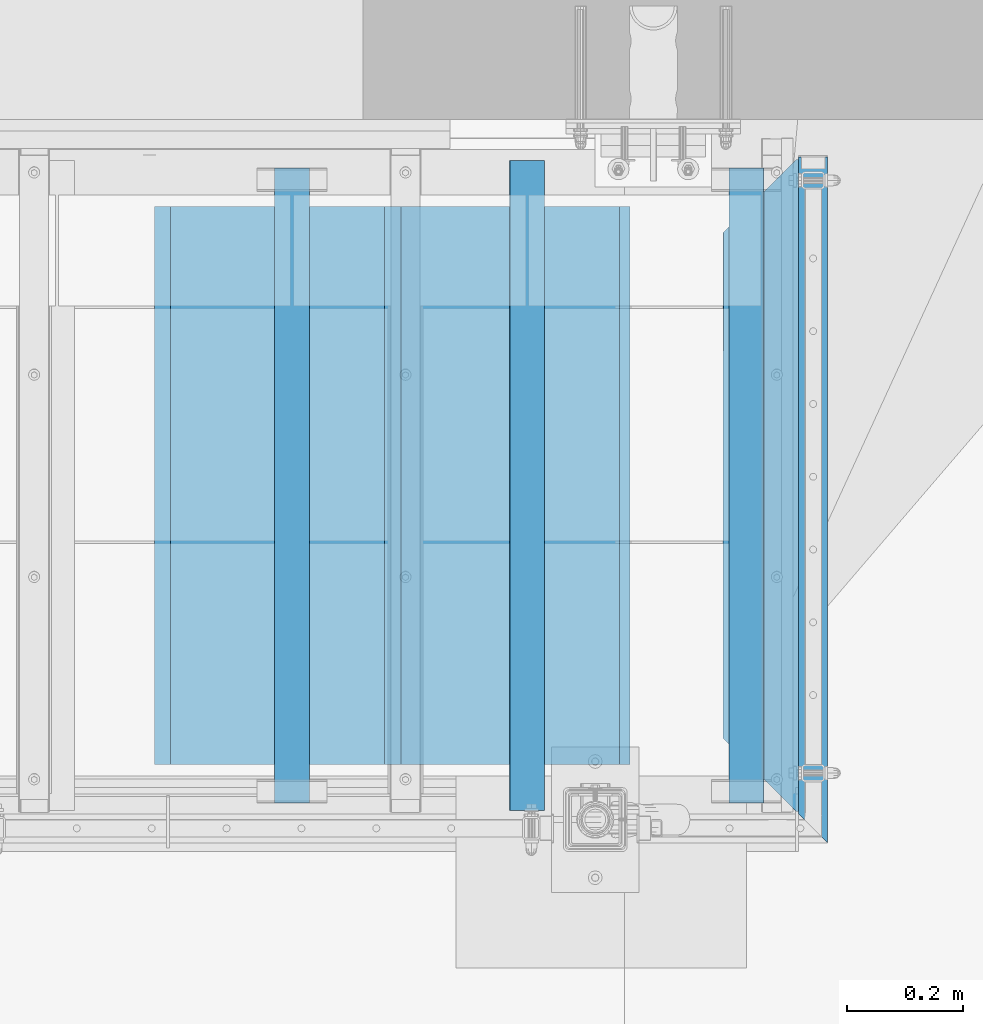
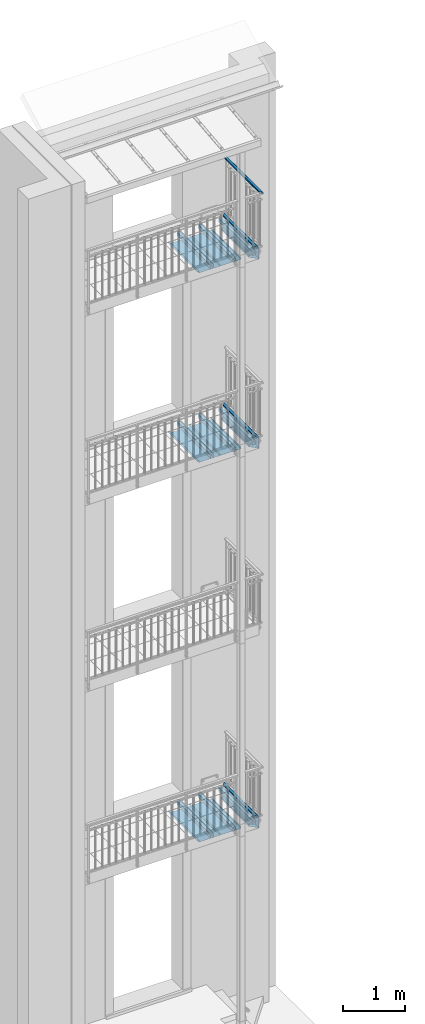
# One storey, part 44 of 162: 19 beams, 24 openings.
"""IFC2X3 building model written with IfcOpenShell, lengths in millimetres."""

from ifc_helpers import new_model, entity, si_unit, converted_unit, point, frame, frame_2d, origin, origin_with_axes, origin_2d, origin_2d_with_axis, place, context, project, spatial, polyline, circle_curve, line_curve, trimmed, segment, composite_curve, hollow_rectangle, circle, outline, extrude, clip, halfspace, material, element, save


model = new_model("IFC2X3")

# Units and contexts
model_context = context("Model", 3, precision=1e-09, world=origin_with_axes())
ifc_project = project(units=[si_unit("LENGTHUNIT", "METRE", prefix="MILLI"), si_unit("AREAUNIT", "SQUARE_METRE"), si_unit("VOLUMEUNIT", "CUBIC_METRE"), converted_unit("PLANEANGLEUNIT", "DEGREE", entity("IfcPlaneAngleMeasure", 0.01745329), si_unit("PLANEANGLEUNIT", "RADIAN"), dimensions=[0, 0, 0, 0, 0, 0, 0])], contexts=[model_context])

# Site, building, storey
site_placement = place(None, origin_with_axes())
site = spatial("IfcSite", under=ifc_project, at=site_placement, Name="Hermannstra?e 1a, 60318 Frankfurt", CompositionType="ELEMENT")
building_placement = place(site_placement, origin_with_axes())
building = spatial("IfcBuilding", under=site, at=building_placement, Name="Struktur 1", CompositionType="ELEMENT")
storey_placement = place(building_placement, origin_with_axes())
storey = spatial("IfcBuildingStorey", under=building, at=storey_placement, Name="Default Storey", CompositionType="ELEMENT", Elevation=0.0)

# Beam, openings
ifc_material_1 = material(Name="S355JR")
beam_1_placement = place(None, frame((5758.30936482, 1163.302136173, 11364.999), z_axis=(0.0, 1.0, 0.0), x_axis=(-1.0, 0.0, 0.0)))
beam_1 = element("IfcBeam", 1, at=beam_1_placement, inside=storey, material=ifc_material_1, Name="-", ObjectType="-", context=model_context, shape_type="Clipping", body=[
    clip(clip(extrude(outline(composite_curve([segment(trimmed(circle_curve(frame_2d((57.999999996, -107.999999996), x_axis=(1.0, 0.0)), 7.000000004), [point((58.0, -115.0))], [point((65.0, -108.0))], True, "CARTESIAN"), True, "CONTINUOUS"), segment(trimmed(line_curve((65.0, -108.0), (0.0, 1.0), 31.0), [point((65.0, -108.0))], [point((65.0, -77.0))], True, "CARTESIAN"), True, "CONTINUOUS"), segment(trimmed(circle_curve(frame_2d((57.999999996, -77.000000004), x_axis=(1.0, 0.0)), 7.000000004), [point((65.0, -77.0))], [point((58.0, -70.0))], True, "CARTESIAN"), True, "CONTINUOUS"), segment(trimmed(line_curve((58.0, -70.0), (-1.0, 0.0), 23.0), [point((58.0, -70.0))], [point((35.0, -70.0))], True, "CARTESIAN"), True, "CONTINUOUS"), segment(trimmed(line_curve((35.0, -70.0), (0.0, -1.0), 4.0), [point((35.0, -70.0))], [point((35.0, -74.0))], True, "CARTESIAN"), True, "CONTINUOUS"), segment(trimmed(line_curve((35.0, -74.0), (1.0, 0.0), 23.0), [point((35.0, -74.0))], [point((58.0, -74.0))], True, "CARTESIAN"), True, "CONTINUOUS"), segment(trimmed(circle_curve(frame_2d((57.999999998, -77.000000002), x_axis=(-1.0, 0.0)), 3.000000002), [point((58.0, -74.0))], [point((61.0, -77.0))], False, "CARTESIAN"), True, "CONTINUOUS"), segment(trimmed(line_curve((61.0, -77.0), (0.0, -1.0), 31.0), [point((61.0, -77.0))], [point((61.0, -108.0))], True, "CARTESIAN"), True, "CONTINUOUS"), segment(trimmed(circle_curve(frame_2d((57.999999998, -107.999999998), x_axis=(-1.0, 0.0)), 3.000000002), [point((61.0, -108.0))], [point((58.0, -111.0))], False, "CARTESIAN"), True, "CONTINUOUS"), segment(trimmed(line_curve((58.0, -111.0), (-1.0, 0.0), 116.0), [point((58.0, -111.0))], [point((-58.0, -111.0))], True, "CARTESIAN"), True, "CONTINUOUS"), segment(trimmed(circle_curve(frame_2d((-57.999999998, -107.999999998), x_axis=(-1.0, 0.0)), 3.000000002), [point((-58.0, -111.0))], [point((-61.0, -108.0))], False, "CARTESIAN"), True, "CONTINUOUS"), segment(trimmed(line_curve((-61.0, -108.0), (0.0, 1.0), 216.0), [point((-61.0, -108.0))], [point((-61.0, 108.0))], True, "CARTESIAN"), True, "CONTINUOUS"), segment(trimmed(circle_curve(frame_2d((-57.999999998, 107.999999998), x_axis=(-1.0, 0.0)), 3.000000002), [point((-61.0, 108.0))], [point((-58.0, 111.0))], False, "CARTESIAN"), True, "CONTINUOUS"), segment(trimmed(line_curve((-58.0, 111.0), (1.0, 0.0), 46.0), [point((-58.0, 111.0))], [point((-12.0, 111.0))], True, "CARTESIAN"), True, "CONTINUOUS"), segment(trimmed(circle_curve(frame_2d((-12.000000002, 107.999999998), x_axis=(-1.0, 0.0)), 3.000000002), [point((-12.0, 111.0))], [point((-9.0, 108.0))], False, "CARTESIAN"), True, "CONTINUOUS"), segment(trimmed(line_curve((-9.0, 108.0), (0.0, -1.0), 33.0), [point((-9.0, 108.0))], [point((-9.0, 75.0))], True, "CARTESIAN"), True, "CONTINUOUS"), segment(trimmed(line_curve((-9.0, 75.0), (1.0, 0.0), 4.0), [point((-9.0, 75.0))], [point((-5.0, 75.0))], True, "CARTESIAN"), True, "CONTINUOUS"), segment(trimmed(line_curve((-5.0, 75.0), (0.0, 1.0), 33.0), [point((-5.0, 75.0))], [point((-5.0, 108.0))], True, "CARTESIAN"), True, "CONTINUOUS"), segment(trimmed(circle_curve(frame_2d((-12.000000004, 107.999999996), x_axis=(1.0, 0.0)), 7.000000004), [point((-5.0, 108.0))], [point((-12.0, 115.0))], True, "CARTESIAN"), True, "CONTINUOUS"), segment(trimmed(line_curve((-12.0, 115.0), (-1.0, 0.0), 46.0), [point((-12.0, 115.0))], [point((-58.0, 115.0))], True, "CARTESIAN"), True, "CONTINUOUS"), segment(trimmed(circle_curve(frame_2d((-57.999999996, 107.999999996), x_axis=(1.0, 0.0)), 7.000000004), [point((-58.0, 115.0))], [point((-65.0, 108.0))], True, "CARTESIAN"), True, "CONTINUOUS"), segment(trimmed(line_curve((-65.0, 108.0), (0.0, -1.0), 216.0), [point((-65.0, 108.0))], [point((-65.0, -108.0))], True, "CARTESIAN"), True, "CONTINUOUS"), segment(trimmed(circle_curve(frame_2d((-57.999999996, -107.999999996), x_axis=(1.0, 0.0)), 7.000000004), [point((-65.0, -108.0))], [point((-58.0, -115.0))], True, "CARTESIAN"), True, "CONTINUOUS"), segment(trimmed(line_curve((-58.0, -115.0), (1.0, 0.0), 116.0), [point((-58.0, -115.0))], [point((58.0, -115.0))], True, "CARTESIAN"), True, "CONTINUOUS")], self_intersect=False)), origin(), (0.0, 0.0, 1.0), 1884.614475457), halfspace(frame((4181.958662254, -11364.999, -2739.652838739), z_axis=(-0.707106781, 0.0, -0.707106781), x_axis=(-0.707106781, 0.0, 0.707106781)), True)), halfspace(frame((2076.349288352, -11364.999, 2518.657940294), z_axis=(-0.707106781, 0.0, 0.707106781), x_axis=(0.707106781, 0.0, 0.707106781)), True)),
])
opening_1_placement = place(beam_1_placement, frame((-56.065030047, 215.1, 367.985828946), z_axis=(0.0, 1.0, 0.0), x_axis=(-1.0, 0.0, 0.0)))
element("IfcOpeningElement", 2, at=opening_1_placement, cuts=beam_1, ObjectType="Opening", context=model_context, shape_type="SweptSolid", body=[
    extrude(outline(polyline([(0.0, 0.0), (32.796627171, 0.0), (32.796627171, 13.322408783), (0.0, 13.322408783), (0.0, 0.0)])), origin(), (0.0, 0.0, -1.0), 430.2),
])
opening_2_placement = place(beam_1_placement, frame((-72.463343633, 215.1, 1509.96744212), z_axis=(0.0, -1.0, 0.0), x_axis=(-1.0, 0.0, 0.0)))
element("IfcOpeningElement", 3, at=opening_2_placement, cuts=beam_1, ObjectType="Opening", context=model_context, shape_type="SweptSolid", body=[
    extrude(outline(polyline([(-16.398313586, -6.661204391), (16.398313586, -6.661204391), (16.398313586, 6.661204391), (-16.398313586, 6.661204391), (-16.398313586, -6.661204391)])), origin(), (0.0, 0.0, 1.0), 430.2),
])
opening_3_placement = place(beam_1_placement, frame((-60.5, 95.0, 407.307823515), z_axis=(1.0, 0.0, 0.0), x_axis=(0.0, 1.0, 0.0)))
element("IfcOpeningElement", 4, at=opening_3_placement, cuts=beam_1, ObjectType="Opening", context=model_context, shape_type="SweptSolid", body=[
    extrude(circle(Radius=10.001, at=frame_2d((0.0, -10.001), x_axis=(1.0, 0.0))), origin(), (0.0, 0.0, -1.0), 5.0),
])
opening_4_placement = place(beam_1_placement, frame((-65.5, 55.0, 440.306237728), z_axis=(-1.0, 0.0, 0.0), x_axis=(0.0, -1.0, 0.0)))
element("IfcOpeningElement", 5, at=opening_4_placement, cuts=beam_1, ObjectType="Opening", context=model_context, shape_type="SweptSolid", body=[
    extrude(circle(Radius=7.001, at=frame_2d((0.0, 7.001), x_axis=(1.0, 0.0))), origin(), (0.0, 0.0, -1.0), 5.0),
])
opening_5_placement = place(beam_1_placement, frame((-65.5, -25.0, 440.306237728), z_axis=(-1.0, 0.0, 0.0), x_axis=(0.0, -1.0, 0.0)))
element("IfcOpeningElement", 6, at=opening_5_placement, cuts=beam_1, ObjectType="Opening", context=model_context, shape_type="SweptSolid", body=[
    extrude(circle(Radius=7.001, at=frame_2d((0.0, 7.001), x_axis=(1.0, 0.0))), origin(), (0.0, 0.0, -1.0), 5.0),
])
opening_6_placement = place(beam_1_placement, frame((-65.5, 55.0, 1460.306237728), z_axis=(-1.0, 0.0, 0.0), x_axis=(0.0, -1.0, 0.0)))
element("IfcOpeningElement", 7, at=opening_6_placement, cuts=beam_1, ObjectType="Opening", context=model_context, shape_type="SweptSolid", body=[
    extrude(circle(Radius=7.001, at=frame_2d((0.0, 7.001), x_axis=(1.0, 0.0))), origin(), (0.0, 0.0, -1.0), 5.0),
])
opening_7_placement = place(beam_1_placement, frame((-65.5, -25.0, 1460.306237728), z_axis=(-1.0, 0.0, 0.0), x_axis=(0.0, -1.0, 0.0)))
element("IfcOpeningElement", 8, at=opening_7_placement, cuts=beam_1, ObjectType="Opening", context=model_context, shape_type="SweptSolid", body=[
    extrude(circle(Radius=7.001, at=frame_2d((0.0, 7.001), x_axis=(1.0, 0.0))), origin(), (0.0, 0.0, -1.0), 5.0),
])

# Beams
ifc_material_2 = material(Name="S235JR")
beam_2_placement = place(None, frame((5356.05936482, 1546.109373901, 11384.999), z_axis=(0.0, 1.0, 0.0), x_axis=(-1.0, 0.0, 0.0)))
element("IfcBeam", 9, at=beam_2_placement, inside=storey, material=ifc_material_2, Name="-", ObjectType="-", context=model_context, shape_type="SweptSolid", body=[
    extrude(hollow_rectangle(XDim=60.0, YDim=80.0, WallThickness=4.0, InnerFilletRadius=4.0, OuterFilletRadius=8.0, at=origin_2d()), origin(), (0.0, 0.0, 1.0), 1119.0),
])
for number, where, z_axis, x_axis in (
    (10, (4951.55936482, 1559.609373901, 11384.999), (0.0, 1.0, 0.0), (-1.0, 0.0, 0.0)),
    (11, (5733.30936482, 1559.609373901, 11384.999), (0.0, 1.0, 0.0), (-1.0, 0.0, 0.0)),
):
    element("IfcBeam", number, at=place(None, frame(where, z_axis=z_axis, x_axis=x_axis)), inside=storey, material=ifc_material_2, Name="-", ObjectType="-", context=model_context, shape_type="SweptSolid", body=[
        extrude(hollow_rectangle(XDim=60.0, YDim=80.0, WallThickness=4.0, InnerFilletRadius=4.0, OuterFilletRadius=8.0, at=origin_2d()), origin(), (0.0, 0.0, 1.0), 1092.0),
    ])
ifc_material_3 = material(Name="Alu")
for number, where, z_axis, x_axis in (
    (12, (5136.80936482, 1625.609373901, 11294.999), (0.0, -1.0, 0.0), (1.0, 0.0, 0.0)),
    (13, (5532.80936482, 1625.609373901, 11294.999), (0.0, -1.0, 0.0), (1.0, 0.0, 0.0)),
    (14, (5136.80936482, 1625.609373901, 15051.999), (0.0, -1.0, 0.0), (1.0, 0.0, 0.0)),
    (15, (5532.80936482, 1625.609373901, 15051.999), (0.0, -1.0, 0.0), (1.0, 0.0, 0.0)),
):
    element("IfcBeam", number, at=place(None, frame(where, z_axis=z_axis, x_axis=x_axis)), inside=storey, material=ifc_material_3, Name="-", ObjectType="-", context=model_context, shape_type="SweptSolid", body=[
        extrude(outline(polyline([(-421.449159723, 31.122617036), (-396.0, 34.699263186), (-396.0, 0.0), (0.0, 0.0), (0.0, 34.0), (-17.824825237, 31.494884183), (-17.546479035, 29.514348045), (-2.0, 31.699263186), (-2.0, 2.0), (-394.0, 2.0), (-394.0, 37.0), (-421.727505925, 33.103153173), (-421.449159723, 31.122617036)])), origin(), (0.0, 0.0, -1.0), 960.0),
    ])

# Beam, openings
beam_3_placement = place(None, frame((5848.30936482, 2670.609373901, 16321.999), z_axis=(0.0, 1.0, 0.0), x_axis=(0.0, 0.0, -1.0)))
beam_3 = element("IfcBeam", 16, at=beam_3_placement, inside=storey, material=ifc_material_2, Name="-", ObjectType="-", context=model_context, shape_type="Clipping", body=[
    clip(extrude(hollow_rectangle(XDim=30.0, YDim=50.0, WallThickness=3.0, InnerFilletRadius=3.0, OuterFilletRadius=6.0, at=origin_2d()), origin(), (0.0, 0.0, -1.0), 1196.231056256), halfspace(frame((16321.999, 2166.349288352, 1011.350702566), z_axis=(0.0, -0.707106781, 0.707106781), x_axis=(0.0, 0.707106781, 0.707106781)), True)),
])
opening_8_placement = place(beam_3_placement, frame((11.5, 0.0, -1065.001), z_axis=(-1.0, 0.0, 0.0), x_axis=(0.0, -1.0, 0.0)))
element("IfcOpeningElement", 17, at=opening_8_placement, cuts=beam_3, ObjectType="Opening", context=model_context, shape_type="SweptSolid", body=[
    extrude(circle(Radius=5.001, at=frame_2d((0.0, 5.001), x_axis=(1.0, 0.0))), origin(), (0.0, 0.0, -1.0), 4.0),
])
opening_9_placement = place(beam_3_placement, frame((11.5, 0.0, -40.0), z_axis=(1.0, 0.0, 0.0), x_axis=(0.0, 0.0, -1.0)))
element("IfcOpeningElement", 18, at=opening_9_placement, cuts=beam_3, ObjectType="Opening", context=model_context, shape_type="SweptSolid", body=[
    extrude(circle(Radius=5.001, at=origin_2d_with_axis()), origin(), (0.0, 0.0, 1.0), 4.0),
])
opening_10_placement = place(beam_3_placement, frame((0.0, -21.5, -1180.0), z_axis=(0.0, -1.0, 0.0), x_axis=(0.0, 0.0, 1.0)))
element("IfcOpeningElement", 19, at=opening_10_placement, cuts=beam_3, ObjectType="Opening", context=model_context, shape_type="SweptSolid", body=[
    extrude(circle(Radius=4.001, at=frame_2d((10.0, 0.0), x_axis=(1.0, 0.0))), origin(), (0.0, 0.0, 1.0), 4.0),
])

beam_4_placement = place(None, frame((5758.30936482, 1163.302136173, 15121.999), z_axis=(0.0, 1.0, 0.0), x_axis=(-1.0, 0.0, 0.0)))
beam_4 = element("IfcBeam", 20, at=beam_4_placement, inside=storey, material=ifc_material_1, Name="-", ObjectType="-", context=model_context, shape_type="Clipping", body=[
    clip(clip(extrude(outline(composite_curve([segment(trimmed(circle_curve(frame_2d((57.999999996, -107.999999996), x_axis=(1.0, 0.0)), 7.000000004), [point((58.0, -115.0))], [point((65.0, -108.0))], True, "CARTESIAN"), True, "CONTINUOUS"), segment(trimmed(line_curve((65.0, -108.0), (0.0, 1.0), 31.0), [point((65.0, -108.0))], [point((65.0, -77.0))], True, "CARTESIAN"), True, "CONTINUOUS"), segment(trimmed(circle_curve(frame_2d((57.999999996, -77.000000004), x_axis=(1.0, 0.0)), 7.000000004), [point((65.0, -77.0))], [point((58.0, -70.0))], True, "CARTESIAN"), True, "CONTINUOUS"), segment(trimmed(line_curve((58.0, -70.0), (-1.0, 0.0), 23.0), [point((58.0, -70.0))], [point((35.0, -70.0))], True, "CARTESIAN"), True, "CONTINUOUS"), segment(trimmed(line_curve((35.0, -70.0), (0.0, -1.0), 4.0), [point((35.0, -70.0))], [point((35.0, -74.0))], True, "CARTESIAN"), True, "CONTINUOUS"), segment(trimmed(line_curve((35.0, -74.0), (1.0, 0.0), 23.0), [point((35.0, -74.0))], [point((58.0, -74.0))], True, "CARTESIAN"), True, "CONTINUOUS"), segment(trimmed(circle_curve(frame_2d((57.999999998, -77.000000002), x_axis=(-1.0, 0.0)), 3.000000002), [point((58.0, -74.0))], [point((61.0, -77.0))], False, "CARTESIAN"), True, "CONTINUOUS"), segment(trimmed(line_curve((61.0, -77.0), (0.0, -1.0), 31.0), [point((61.0, -77.0))], [point((61.0, -108.0))], True, "CARTESIAN"), True, "CONTINUOUS"), segment(trimmed(circle_curve(frame_2d((57.999999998, -107.999999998), x_axis=(-1.0, 0.0)), 3.000000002), [point((61.0, -108.0))], [point((58.0, -111.0))], False, "CARTESIAN"), True, "CONTINUOUS"), segment(trimmed(line_curve((58.0, -111.0), (-1.0, 0.0), 116.0), [point((58.0, -111.0))], [point((-58.0, -111.0))], True, "CARTESIAN"), True, "CONTINUOUS"), segment(trimmed(circle_curve(frame_2d((-57.999999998, -107.999999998), x_axis=(-1.0, 0.0)), 3.000000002), [point((-58.0, -111.0))], [point((-61.0, -108.0))], False, "CARTESIAN"), True, "CONTINUOUS"), segment(trimmed(line_curve((-61.0, -108.0), (0.0, 1.0), 216.0), [point((-61.0, -108.0))], [point((-61.0, 108.0))], True, "CARTESIAN"), True, "CONTINUOUS"), segment(trimmed(circle_curve(frame_2d((-57.999999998, 107.999999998), x_axis=(-1.0, 0.0)), 3.000000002), [point((-61.0, 108.0))], [point((-58.0, 111.0))], False, "CARTESIAN"), True, "CONTINUOUS"), segment(trimmed(line_curve((-58.0, 111.0), (1.0, 0.0), 46.0), [point((-58.0, 111.0))], [point((-12.0, 111.0))], True, "CARTESIAN"), True, "CONTINUOUS"), segment(trimmed(circle_curve(frame_2d((-12.000000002, 107.999999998), x_axis=(-1.0, 0.0)), 3.000000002), [point((-12.0, 111.0))], [point((-9.0, 108.0))], False, "CARTESIAN"), True, "CONTINUOUS"), segment(trimmed(line_curve((-9.0, 108.0), (0.0, -1.0), 33.0), [point((-9.0, 108.0))], [point((-9.0, 75.0))], True, "CARTESIAN"), True, "CONTINUOUS"), segment(trimmed(line_curve((-9.0, 75.0), (1.0, 0.0), 4.0), [point((-9.0, 75.0))], [point((-5.0, 75.0))], True, "CARTESIAN"), True, "CONTINUOUS"), segment(trimmed(line_curve((-5.0, 75.0), (0.0, 1.0), 33.0), [point((-5.0, 75.0))], [point((-5.0, 108.0))], True, "CARTESIAN"), True, "CONTINUOUS"), segment(trimmed(circle_curve(frame_2d((-12.000000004, 107.999999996), x_axis=(1.0, 0.0)), 7.000000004), [point((-5.0, 108.0))], [point((-12.0, 115.0))], True, "CARTESIAN"), True, "CONTINUOUS"), segment(trimmed(line_curve((-12.0, 115.0), (-1.0, 0.0), 46.0), [point((-12.0, 115.0))], [point((-58.0, 115.0))], True, "CARTESIAN"), True, "CONTINUOUS"), segment(trimmed(circle_curve(frame_2d((-57.999999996, 107.999999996), x_axis=(1.0, 0.0)), 7.000000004), [point((-58.0, 115.0))], [point((-65.0, 108.0))], True, "CARTESIAN"), True, "CONTINUOUS"), segment(trimmed(line_curve((-65.0, 108.0), (0.0, -1.0), 216.0), [point((-65.0, 108.0))], [point((-65.0, -108.0))], True, "CARTESIAN"), True, "CONTINUOUS"), segment(trimmed(circle_curve(frame_2d((-57.999999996, -107.999999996), x_axis=(1.0, 0.0)), 7.000000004), [point((-65.0, -108.0))], [point((-58.0, -115.0))], True, "CARTESIAN"), True, "CONTINUOUS"), segment(trimmed(line_curve((-58.0, -115.0), (1.0, 0.0), 116.0), [point((-58.0, -115.0))], [point((58.0, -115.0))], True, "CARTESIAN"), True, "CONTINUOUS")], self_intersect=False)), origin(), (0.0, 0.0, 1.0), 1884.614475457), halfspace(frame((4181.958662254, -15121.999, -2739.652838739), z_axis=(-0.707106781, 0.0, -0.707106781), x_axis=(-0.707106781, 0.0, 0.707106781)), True)), halfspace(frame((2076.349288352, -15121.999, 2518.657940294), z_axis=(-0.707106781, 0.0, 0.707106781), x_axis=(0.707106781, 0.0, 0.707106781)), True)),
])
opening_11_placement = place(beam_4_placement, frame((-56.065030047, 215.1, 367.985828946), z_axis=(0.0, 1.0, 0.0), x_axis=(-1.0, 0.0, 0.0)))
element("IfcOpeningElement", 21, at=opening_11_placement, cuts=beam_4, ObjectType="Opening", context=model_context, shape_type="SweptSolid", body=[
    extrude(outline(polyline([(0.0, 0.0), (32.796627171, 0.0), (32.796627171, 13.322408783), (0.0, 13.322408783), (0.0, 0.0)])), origin(), (0.0, 0.0, -1.0), 430.2),
])
opening_12_placement = place(beam_4_placement, frame((-72.463343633, 215.1, 1509.96744212), z_axis=(0.0, -1.0, 0.0), x_axis=(-1.0, 0.0, 0.0)))
element("IfcOpeningElement", 22, at=opening_12_placement, cuts=beam_4, ObjectType="Opening", context=model_context, shape_type="SweptSolid", body=[
    extrude(outline(polyline([(-16.398313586, -6.661204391), (16.398313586, -6.661204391), (16.398313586, 6.661204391), (-16.398313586, 6.661204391), (-16.398313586, -6.661204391)])), origin(), (0.0, 0.0, 1.0), 430.2),
])
opening_13_placement = place(beam_4_placement, frame((-60.5, 95.0, 407.307823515), z_axis=(1.0, 0.0, 0.0), x_axis=(0.0, 1.0, 0.0)))
element("IfcOpeningElement", 23, at=opening_13_placement, cuts=beam_4, ObjectType="Opening", context=model_context, shape_type="SweptSolid", body=[
    extrude(circle(Radius=10.001, at=frame_2d((0.0, -10.001), x_axis=(1.0, 0.0))), origin(), (0.0, 0.0, -1.0), 5.0),
])
opening_14_placement = place(beam_4_placement, frame((-65.5, 55.0, 440.306237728), z_axis=(-1.0, 0.0, 0.0), x_axis=(0.0, -1.0, 0.0)))
element("IfcOpeningElement", 24, at=opening_14_placement, cuts=beam_4, ObjectType="Opening", context=model_context, shape_type="SweptSolid", body=[
    extrude(circle(Radius=7.001, at=frame_2d((0.0, 7.001), x_axis=(1.0, 0.0))), origin(), (0.0, 0.0, -1.0), 5.0),
])
opening_15_placement = place(beam_4_placement, frame((-65.5, -25.0, 440.306237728), z_axis=(-1.0, 0.0, 0.0), x_axis=(0.0, -1.0, 0.0)))
element("IfcOpeningElement", 25, at=opening_15_placement, cuts=beam_4, ObjectType="Opening", context=model_context, shape_type="SweptSolid", body=[
    extrude(circle(Radius=7.001, at=frame_2d((0.0, 7.001), x_axis=(1.0, 0.0))), origin(), (0.0, 0.0, -1.0), 5.0),
])
opening_16_placement = place(beam_4_placement, frame((-65.5, 55.0, 1460.306237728), z_axis=(-1.0, 0.0, 0.0), x_axis=(0.0, -1.0, 0.0)))
element("IfcOpeningElement", 26, at=opening_16_placement, cuts=beam_4, ObjectType="Opening", context=model_context, shape_type="SweptSolid", body=[
    extrude(circle(Radius=7.001, at=frame_2d((0.0, 7.001), x_axis=(1.0, 0.0))), origin(), (0.0, 0.0, -1.0), 5.0),
])
opening_17_placement = place(beam_4_placement, frame((-65.5, -25.0, 1460.306237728), z_axis=(-1.0, 0.0, 0.0), x_axis=(0.0, -1.0, 0.0)))
element("IfcOpeningElement", 27, at=opening_17_placement, cuts=beam_4, ObjectType="Opening", context=model_context, shape_type="SweptSolid", body=[
    extrude(circle(Radius=7.001, at=frame_2d((0.0, 7.001), x_axis=(1.0, 0.0))), origin(), (0.0, 0.0, -1.0), 5.0),
])

# Beams
beam_5_placement = place(None, frame((5356.05936482, 1546.109373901, 15141.999), z_axis=(0.0, 1.0, 0.0), x_axis=(-1.0, 0.0, 0.0)))
element("IfcBeam", 28, at=beam_5_placement, inside=storey, material=ifc_material_2, Name="-", ObjectType="-", context=model_context, shape_type="SweptSolid", body=[
    extrude(hollow_rectangle(XDim=60.0, YDim=80.0, WallThickness=4.0, InnerFilletRadius=4.0, OuterFilletRadius=8.0, at=origin_2d()), origin(), (0.0, 0.0, 1.0), 1119.0),
])
for number, where, z_axis, x_axis in (
    (29, (4951.55936482, 1559.609373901, 15141.999), (0.0, 1.0, 0.0), (-1.0, 0.0, 0.0)),
    (30, (5733.30936482, 1559.609373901, 15141.999), (0.0, 1.0, 0.0), (-1.0, 0.0, 0.0)),
):
    element("IfcBeam", number, at=place(None, frame(where, z_axis=z_axis, x_axis=x_axis)), inside=storey, material=ifc_material_2, Name="-", ObjectType="-", context=model_context, shape_type="SweptSolid", body=[
        extrude(hollow_rectangle(XDim=60.0, YDim=80.0, WallThickness=4.0, InnerFilletRadius=4.0, OuterFilletRadius=8.0, at=origin_2d()), origin(), (0.0, 0.0, 1.0), 1092.0),
    ])
beam_6_placement = place(None, frame((5356.05936482, 1546.109373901, 3860.0), z_axis=(0.0, 1.0, 0.0), x_axis=(-1.0, 0.0, 0.0)))
element("IfcBeam", 31, at=beam_6_placement, inside=storey, material=ifc_material_2, Name="-", ObjectType="-", context=model_context, shape_type="SweptSolid", body=[
    extrude(hollow_rectangle(XDim=60.0, YDim=80.0, WallThickness=4.0, InnerFilletRadius=4.0, OuterFilletRadius=8.0, at=origin_2d()), origin(), (0.0, 0.0, 1.0), 1119.0),
])
for number, where, z_axis, x_axis in (
    (32, (4951.55936482, 1559.609373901, 3860.0), (0.0, 1.0, 0.0), (-1.0, 0.0, 0.0)),
    (33, (5733.30936482, 1559.609373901, 3860.0), (0.0, 1.0, 0.0), (-1.0, 0.0, 0.0)),
):
    element("IfcBeam", number, at=place(None, frame(where, z_axis=z_axis, x_axis=x_axis)), inside=storey, material=ifc_material_2, Name="-", ObjectType="-", context=model_context, shape_type="SweptSolid", body=[
        extrude(hollow_rectangle(XDim=60.0, YDim=80.0, WallThickness=4.0, InnerFilletRadius=4.0, OuterFilletRadius=8.0, at=origin_2d()), origin(), (0.0, 0.0, 1.0), 1092.0),
    ])
for number, where, z_axis, x_axis in (
    (34, (5136.80936482, 1625.609373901, 3770.0), (0.0, -1.0, 0.0), (1.0, 0.0, 0.0)),
    (35, (5532.80936482, 1625.609373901, 3770.0), (0.0, -1.0, 0.0), (1.0, 0.0, 0.0)),
):
    element("IfcBeam", number, at=place(None, frame(where, z_axis=z_axis, x_axis=x_axis)), inside=storey, material=ifc_material_3, Name="-", ObjectType="-", context=model_context, shape_type="SweptSolid", body=[
        extrude(outline(polyline([(-421.449159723, 31.122617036), (-396.0, 34.699263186), (-396.0, 0.0), (0.0, 0.0), (0.0, 34.0), (-17.824825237, 31.494884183), (-17.546479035, 29.514348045), (-2.0, 31.699263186), (-2.0, 2.0), (-394.0, 2.0), (-394.0, 37.0), (-421.727505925, 33.103153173), (-421.449159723, 31.122617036)])), origin(), (0.0, 0.0, -1.0), 960.0),
    ])

# Beam, openings
beam_7_placement = place(None, frame((5758.30936482, 1163.302136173, 3840.0), z_axis=(0.0, 1.0, 0.0), x_axis=(-1.0, 0.0, 0.0)))
beam_7 = element("IfcBeam", 36, at=beam_7_placement, inside=storey, material=ifc_material_1, Name="-", ObjectType="-", context=model_context, shape_type="Clipping", body=[
    clip(clip(extrude(outline(composite_curve([segment(trimmed(circle_curve(frame_2d((57.999999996, -107.999999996), x_axis=(1.0, 0.0)), 7.000000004), [point((58.0, -115.0))], [point((65.0, -108.0))], True, "CARTESIAN"), True, "CONTINUOUS"), segment(trimmed(line_curve((65.0, -108.0), (0.0, 1.0), 31.0), [point((65.0, -108.0))], [point((65.0, -77.0))], True, "CARTESIAN"), True, "CONTINUOUS"), segment(trimmed(circle_curve(frame_2d((57.999999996, -77.000000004), x_axis=(1.0, 0.0)), 7.000000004), [point((65.0, -77.0))], [point((58.0, -70.0))], True, "CARTESIAN"), True, "CONTINUOUS"), segment(trimmed(line_curve((58.0, -70.0), (-1.0, 0.0), 23.0), [point((58.0, -70.0))], [point((35.0, -70.0))], True, "CARTESIAN"), True, "CONTINUOUS"), segment(trimmed(line_curve((35.0, -70.0), (0.0, -1.0), 4.0), [point((35.0, -70.0))], [point((35.0, -74.0))], True, "CARTESIAN"), True, "CONTINUOUS"), segment(trimmed(line_curve((35.0, -74.0), (1.0, 0.0), 23.0), [point((35.0, -74.0))], [point((58.0, -74.0))], True, "CARTESIAN"), True, "CONTINUOUS"), segment(trimmed(circle_curve(frame_2d((57.999999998, -77.000000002), x_axis=(-1.0, 0.0)), 3.000000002), [point((58.0, -74.0))], [point((61.0, -77.0))], False, "CARTESIAN"), True, "CONTINUOUS"), segment(trimmed(line_curve((61.0, -77.0), (0.0, -1.0), 31.0), [point((61.0, -77.0))], [point((61.0, -108.0))], True, "CARTESIAN"), True, "CONTINUOUS"), segment(trimmed(circle_curve(frame_2d((57.999999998, -107.999999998), x_axis=(-1.0, 0.0)), 3.000000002), [point((61.0, -108.0))], [point((58.0, -111.0))], False, "CARTESIAN"), True, "CONTINUOUS"), segment(trimmed(line_curve((58.0, -111.0), (-1.0, 0.0), 116.0), [point((58.0, -111.0))], [point((-58.0, -111.0))], True, "CARTESIAN"), True, "CONTINUOUS"), segment(trimmed(circle_curve(frame_2d((-57.999999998, -107.999999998), x_axis=(-1.0, 0.0)), 3.000000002), [point((-58.0, -111.0))], [point((-61.0, -108.0))], False, "CARTESIAN"), True, "CONTINUOUS"), segment(trimmed(line_curve((-61.0, -108.0), (0.0, 1.0), 216.0), [point((-61.0, -108.0))], [point((-61.0, 108.0))], True, "CARTESIAN"), True, "CONTINUOUS"), segment(trimmed(circle_curve(frame_2d((-57.999999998, 107.999999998), x_axis=(-1.0, 0.0)), 3.000000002), [point((-61.0, 108.0))], [point((-58.0, 111.0))], False, "CARTESIAN"), True, "CONTINUOUS"), segment(trimmed(line_curve((-58.0, 111.0), (1.0, 0.0), 46.0), [point((-58.0, 111.0))], [point((-12.0, 111.0))], True, "CARTESIAN"), True, "CONTINUOUS"), segment(trimmed(circle_curve(frame_2d((-12.000000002, 107.999999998), x_axis=(-1.0, 0.0)), 3.000000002), [point((-12.0, 111.0))], [point((-9.0, 108.0))], False, "CARTESIAN"), True, "CONTINUOUS"), segment(trimmed(line_curve((-9.0, 108.0), (0.0, -1.0), 33.0), [point((-9.0, 108.0))], [point((-9.0, 75.0))], True, "CARTESIAN"), True, "CONTINUOUS"), segment(trimmed(line_curve((-9.0, 75.0), (1.0, 0.0), 4.0), [point((-9.0, 75.0))], [point((-5.0, 75.0))], True, "CARTESIAN"), True, "CONTINUOUS"), segment(trimmed(line_curve((-5.0, 75.0), (0.0, 1.0), 33.0), [point((-5.0, 75.0))], [point((-5.0, 108.0))], True, "CARTESIAN"), True, "CONTINUOUS"), segment(trimmed(circle_curve(frame_2d((-12.000000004, 107.999999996), x_axis=(1.0, 0.0)), 7.000000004), [point((-5.0, 108.0))], [point((-12.0, 115.0))], True, "CARTESIAN"), True, "CONTINUOUS"), segment(trimmed(line_curve((-12.0, 115.0), (-1.0, 0.0), 46.0), [point((-12.0, 115.0))], [point((-58.0, 115.0))], True, "CARTESIAN"), True, "CONTINUOUS"), segment(trimmed(circle_curve(frame_2d((-57.999999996, 107.999999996), x_axis=(1.0, 0.0)), 7.000000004), [point((-58.0, 115.0))], [point((-65.0, 108.0))], True, "CARTESIAN"), True, "CONTINUOUS"), segment(trimmed(line_curve((-65.0, 108.0), (0.0, -1.0), 216.0), [point((-65.0, 108.0))], [point((-65.0, -108.0))], True, "CARTESIAN"), True, "CONTINUOUS"), segment(trimmed(circle_curve(frame_2d((-57.999999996, -107.999999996), x_axis=(1.0, 0.0)), 7.000000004), [point((-65.0, -108.0))], [point((-58.0, -115.0))], True, "CARTESIAN"), True, "CONTINUOUS"), segment(trimmed(line_curve((-58.0, -115.0), (1.0, 0.0), 116.0), [point((-58.0, -115.0))], [point((58.0, -115.0))], True, "CARTESIAN"), True, "CONTINUOUS")], self_intersect=False)), origin(), (0.0, 0.0, 1.0), 1884.614475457), halfspace(frame((4181.958662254, -3840.0, -2739.652838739), z_axis=(-0.707106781, 0.0, -0.707106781), x_axis=(-0.707106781, 0.0, 0.707106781)), True)), halfspace(frame((2076.349288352, -3840.0, 2518.657940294), z_axis=(-0.707106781, 0.0, 0.707106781), x_axis=(0.707106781, 0.0, 0.707106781)), True)),
])
opening_18_placement = place(beam_7_placement, frame((-56.065030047, 215.1, 367.985828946), z_axis=(0.0, 1.0, 0.0), x_axis=(-1.0, 0.0, 0.0)))
element("IfcOpeningElement", 37, at=opening_18_placement, cuts=beam_7, ObjectType="Opening", context=model_context, shape_type="SweptSolid", body=[
    extrude(outline(polyline([(0.0, 0.0), (32.796627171, 0.0), (32.796627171, 13.322408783), (0.0, 13.322408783), (0.0, 0.0)])), origin(), (0.0, 0.0, -1.0), 430.2),
])
opening_19_placement = place(beam_7_placement, frame((-72.463343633, 215.1, 1509.96744212), z_axis=(0.0, -1.0, 0.0), x_axis=(-1.0, 0.0, 0.0)))
element("IfcOpeningElement", 38, at=opening_19_placement, cuts=beam_7, ObjectType="Opening", context=model_context, shape_type="SweptSolid", body=[
    extrude(outline(polyline([(-16.398313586, -6.661204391), (16.398313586, -6.661204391), (16.398313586, 6.661204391), (-16.398313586, 6.661204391), (-16.398313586, -6.661204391)])), origin(), (0.0, 0.0, 1.0), 430.2),
])
opening_20_placement = place(beam_7_placement, frame((-60.5, 95.0, 407.307823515), z_axis=(1.0, 0.0, 0.0), x_axis=(0.0, 1.0, 0.0)))
element("IfcOpeningElement", 39, at=opening_20_placement, cuts=beam_7, ObjectType="Opening", context=model_context, shape_type="SweptSolid", body=[
    extrude(circle(Radius=10.001, at=frame_2d((0.0, -10.001), x_axis=(1.0, 0.0))), origin(), (0.0, 0.0, -1.0), 5.0),
])
opening_21_placement = place(beam_7_placement, frame((-65.5, 55.0, 440.306237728), z_axis=(-1.0, 0.0, 0.0), x_axis=(0.0, -1.0, 0.0)))
element("IfcOpeningElement", 40, at=opening_21_placement, cuts=beam_7, ObjectType="Opening", context=model_context, shape_type="SweptSolid", body=[
    extrude(circle(Radius=7.001, at=frame_2d((0.0, 7.001), x_axis=(1.0, 0.0))), origin(), (0.0, 0.0, -1.0), 5.0),
])
opening_22_placement = place(beam_7_placement, frame((-65.5, -25.0, 440.306237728), z_axis=(-1.0, 0.0, 0.0), x_axis=(0.0, -1.0, 0.0)))
element("IfcOpeningElement", 41, at=opening_22_placement, cuts=beam_7, ObjectType="Opening", context=model_context, shape_type="SweptSolid", body=[
    extrude(circle(Radius=7.001, at=frame_2d((0.0, 7.001), x_axis=(1.0, 0.0))), origin(), (0.0, 0.0, -1.0), 5.0),
])
opening_23_placement = place(beam_7_placement, frame((-65.5, 55.0, 1460.306237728), z_axis=(-1.0, 0.0, 0.0), x_axis=(0.0, -1.0, 0.0)))
element("IfcOpeningElement", 42, at=opening_23_placement, cuts=beam_7, ObjectType="Opening", context=model_context, shape_type="SweptSolid", body=[
    extrude(circle(Radius=7.001, at=frame_2d((0.0, 7.001), x_axis=(1.0, 0.0))), origin(), (0.0, 0.0, -1.0), 5.0),
])
opening_24_placement = place(beam_7_placement, frame((-65.5, -25.0, 1460.306237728), z_axis=(-1.0, 0.0, 0.0), x_axis=(0.0, -1.0, 0.0)))
element("IfcOpeningElement", 43, at=opening_24_placement, cuts=beam_7, ObjectType="Opening", context=model_context, shape_type="SweptSolid", body=[
    extrude(circle(Radius=7.001, at=frame_2d((0.0, 7.001), x_axis=(1.0, 0.0))), origin(), (0.0, 0.0, -1.0), 5.0),
])

save(model, "model.ifc")
